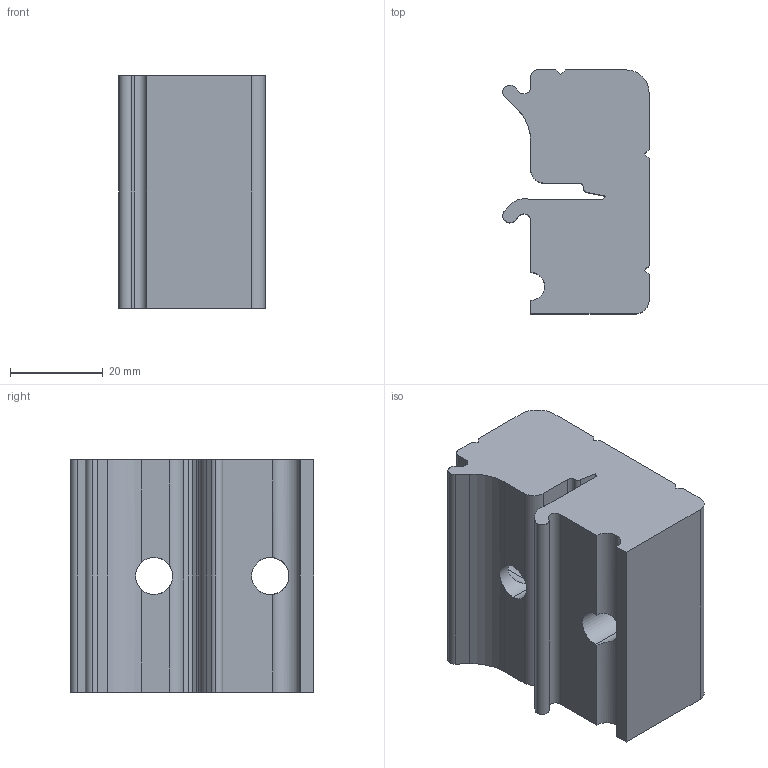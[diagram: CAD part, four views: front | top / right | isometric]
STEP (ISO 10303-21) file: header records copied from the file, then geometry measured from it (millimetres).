
FILE_DESCRIPTION (( 'STEP AP214' ), '1' );
FILE_NAME ('R1 SL32-SL50 para.step', '2017-04-05T08:05:27', ( '' ), ( '' ), 'SwSTEP 2.0', 'SolidWorks 2015', '' );
FILE_SCHEMA (( 'AUTOMOTIVE_DESIGN' ));
Length unit declared in the file: millimetre
Products named in the file (1): R1 SL32-SL50 para
Bounding box: 31.5 x 52.5 x 50 mm (x, y, z)
Volume: 62271.3 mm3; surface area: 14285.4 mm2
Topology: 1 solids, 1 shells, 64 faces, 192 edges, 121 vertices
Faces by surface type: plane 33, cylinder 29, cone 2
Entity records: 2284 total; most frequent: CARTESIAN_POINT 513, ORIENTED_EDGE 380, DIRECTION 354, EDGE_CURVE 190, VERTEX_POINT 121, AXIS2_PLACEMENT_3D 120, VECTOR 114, LINE 114
